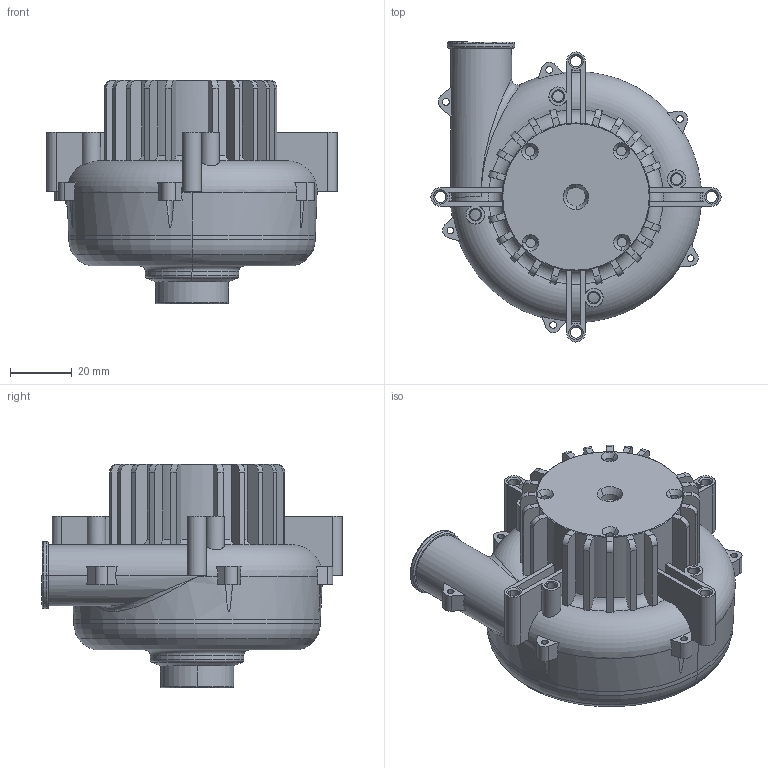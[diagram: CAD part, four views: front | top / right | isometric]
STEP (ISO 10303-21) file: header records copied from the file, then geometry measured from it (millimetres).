
FILE_DESCRIPTION((''),'2;1');
FILE_NAME('B8060_120','2026-04-16T17:26:59',('pc'),(''),'CREO PARAMETRIC BY PTC INC, 2018050','CREO PARAMETRIC BY PTC INC, 2018050','');
FILE_SCHEMA(('CONFIG_CONTROL_DESIGN','GEOMETRIC_VALIDATION_PROPERTIES_MIM'));
Length unit declared in the file: millimetre
Products named in the file (1): B8060_120
Bounding box: 93.6 x 96.86 x 72.22 mm (x, y, z)
Volume: 231525.5 mm3; surface area: 39407.3 mm2
Topology: 1 solids, 3 shells, 411 faces, 1133 edges, 741 vertices
Faces by surface type: plane 172, cylinder 140, torus 52, cone 40, revolution 4, bspline 3
Entity records: 18585 total; most frequent: CARTESIAN_POINT 4236, ORIENTED_EDGE 2266, DIRECTION 2210, PRESENTATION_STYLE_ASSIGNMENT 1163, STYLED_ITEM 1134, CURVE_STYLE 1133, EDGE_CURVE 1133, AXIS2_PLACEMENT_3D 867
